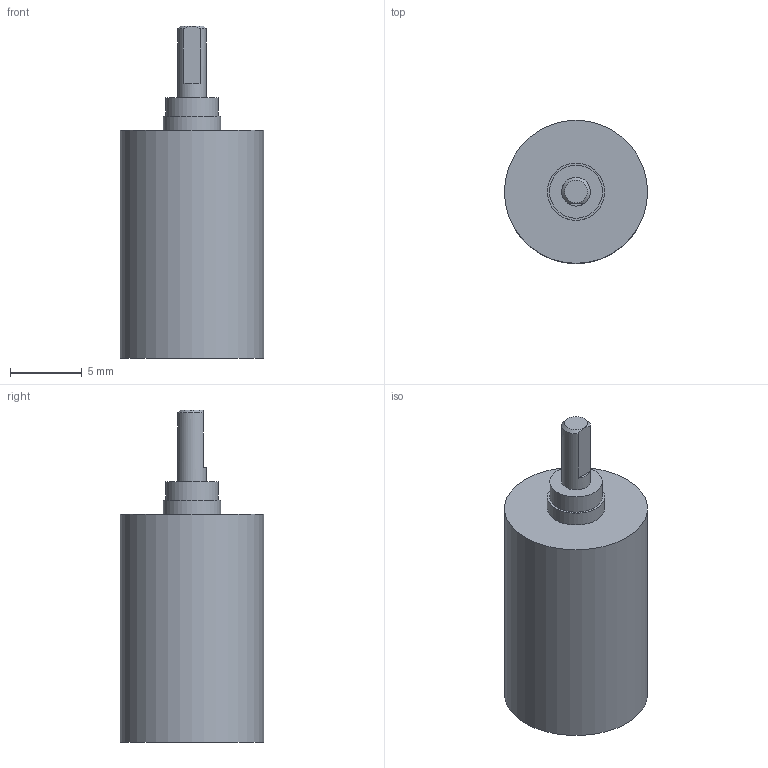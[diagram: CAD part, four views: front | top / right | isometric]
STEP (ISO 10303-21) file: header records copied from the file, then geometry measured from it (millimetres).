
FILE_DESCRIPTION(/* description */ (''),/* implementation_level */ '2;1');
FILE_NAME(/* name */ '10-1_3.stp',/* time_stamp */ '2016-08-24T08:14:50+02:00',/* author */ ('DR. FRITZ FAULHABER GmbH & Co. KG'),/* organization */ ('DR. FRITZ FAULHABER GmbH & Co. KG'),/* preprocessor_version */ 'ST-DEVELOPER v16',/* originating_system */ 'SIEMENS PLM Software NX 10.0',/* authorisation */ '');
FILE_SCHEMA (('AUTOMOTIVE_DESIGN { 1 0 10303 214 3 1 1 1 }'));
Length unit declared in the file: millimetre
Products named in the file (1): H00000409_A
Bounding box: 10 x 10 x 23.2 mm (x, y, z)
Volume: 1203.6 mm3; surface area: 784.4 mm2
Topology: 1 solids, 1 shells, 20 faces, 36 edges, 24 vertices
Faces by surface type: plane 10, cylinder 8, cone 2
Full cylindrical faces by diameter (mm): 2 x1, 3.12 x1, 3.32 x1, 3.7 x1, 4 x1, 4.959 x1, 6 x1, 10 x1
Entity records: 452 total; most frequent: DIRECTION 81, CARTESIAN_POINT 79, ORIENTED_EDGE 46, AXIS2_PLACEMENT_3D 39, EDGE_LOOP 35, FACE_BOUND 30, EDGE_CURVE 23, ADVANCED_FACE 20
